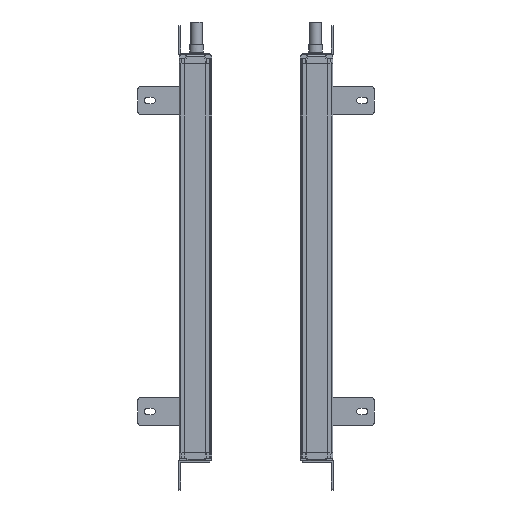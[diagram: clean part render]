
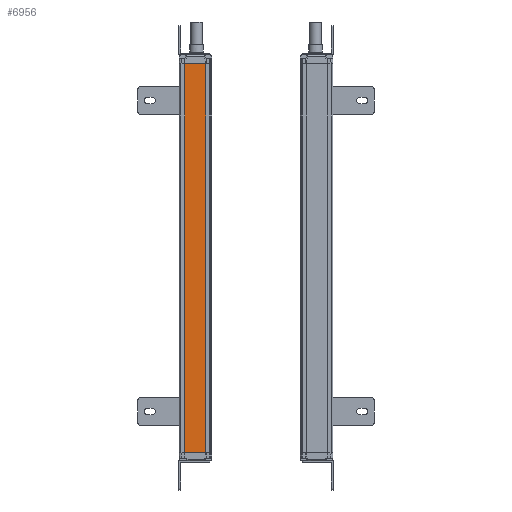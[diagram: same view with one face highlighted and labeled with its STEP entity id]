
A CAD part, left-side view. The second image highlights one B-rep face of the part: STEP entity #6956.
In plain terms, the highlighted planar face has unit normal (-1, 0, 0).
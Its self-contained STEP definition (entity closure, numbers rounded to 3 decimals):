
#953=FACE_OUTER_BOUND('',#9034,.T.);
#2188=LINE('',#33710,#4326);
#2290=LINE('',#34050,#4428);
#2291=LINE('',#34052,#4429);
#2292=LINE('',#34054,#4430);
#4326=VECTOR('',#26897,1.);
#4428=VECTOR('',#27185,1.);
#4429=VECTOR('',#27188,1.);
#4430=VECTOR('',#27189,1.);
#6178=PLANE('',#23723);
#6956=ADVANCED_FACE('',(#953),#6178,.T.);
#9034=EDGE_LOOP('',(#11681,#11682,#11683,#11684));
#11681=ORIENTED_EDGE('',*,*,#19828,.F.);
#11682=ORIENTED_EDGE('',*,*,#19829,.T.);
#11683=ORIENTED_EDGE('',*,*,#19830,.T.);
#11684=ORIENTED_EDGE('',*,*,#19658,.F.);
#17203=VERTEX_POINT('',#33709);
#17204=VERTEX_POINT('',#33711);
#17348=VERTEX_POINT('',#34049);
#17349=VERTEX_POINT('',#34053);
#19658=EDGE_CURVE('',#17203,#17204,#2188,.T.);
#19828=EDGE_CURVE('',#17348,#17203,#2290,.T.);
#19829=EDGE_CURVE('',#17348,#17349,#2291,.T.);
#19830=EDGE_CURVE('',#17349,#17204,#2292,.T.);
#23723=AXIS2_PLACEMENT_3D('',#34055,#27190,#27191);
#26897=DIRECTION('',(0.,-1.,0.));
#27185=DIRECTION('',(0.,0.,1.));
#27188=DIRECTION('',(0.,-1.,0.));
#27189=DIRECTION('',(0.,0.,1.));
#27190=DIRECTION('',(-1.,0.,0.));
#27191=DIRECTION('',(0.,1.,0.));
#33709=CARTESIAN_POINT('',(233.846,104.141,31.645));
#33710=CARTESIAN_POINT('',(233.846,81.141,31.645));
#33711=CARTESIAN_POINT('',(233.846,81.141,31.645));
#34049=CARTESIAN_POINT('',(233.846,104.141,-393.355));
#34050=CARTESIAN_POINT('',(233.846,104.141,-155.355));
#34052=CARTESIAN_POINT('',(233.846,81.141,-393.355));
#34053=CARTESIAN_POINT('',(233.846,81.141,-393.355));
#34054=CARTESIAN_POINT('',(233.846,81.141,-155.355));
#34055=CARTESIAN_POINT('',(233.846,81.141,-50.355));
